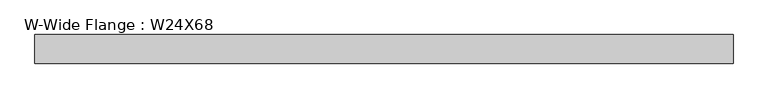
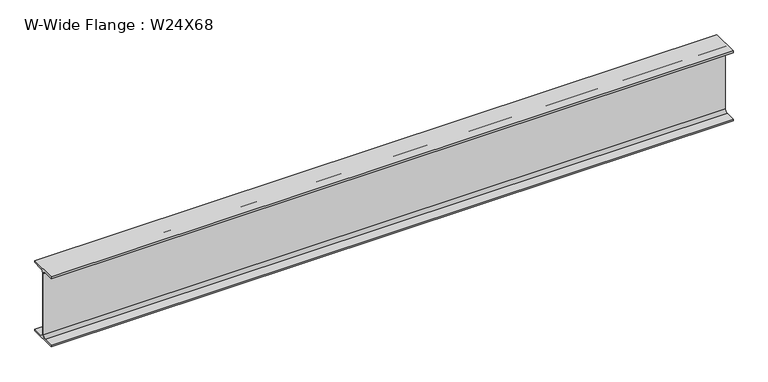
"""IFC4 building model written with IfcOpenShell, lengths in millimetres: beam geometry, W-Wide Flange : W24X68."""

from ifc_helpers import new_model, si_unit, point, frame, frame_2d, origin, place, context, project, spatial, polyline, circle_curve, trimmed, segment, composite_curve, outline, extrude, source, transform, mapped, element, save


def w_wide_flange_w24x68_358f6d4c(model_context):
    return source(origin(), model_context, "Body", "SweptSolid", [
        extrude(outline(composite_curve([segment(polyline([(113.919, -286.131), (113.919, -300.99), (-113.919, -300.99), (-113.919, -286.131), (-28.5115, -286.131)]), True, "CONTINUOUS"), segment(trimmed(circle_curve(frame_2d((-28.5115, -262.89)), 23.241), [point((-28.5115, -286.131))], [point((-5.2705, -262.89))], True, "CARTESIAN"), True, "CONTINUOUS"), segment(polyline([(-5.2705, -262.89), (-5.2705, 262.89)]), True, "CONTINUOUS"), segment(trimmed(circle_curve(frame_2d((-28.5115, 262.89)), 23.241), [point((-5.2705, 262.89))], [point((-28.5115, 286.131))], True, "CARTESIAN"), True, "CONTINUOUS"), segment(polyline([(-28.5115, 286.131), (-113.919, 286.131), (-113.919, 300.99), (113.919, 300.99), (113.919, 286.131), (28.5115, 286.131)]), True, "CONTINUOUS"), segment(trimmed(circle_curve(frame_2d((28.5115, 262.89)), 23.241), [point((28.5115, 286.131))], [point((5.2705, 262.89))], True, "CARTESIAN"), True, "CONTINUOUS"), segment(polyline([(5.2705, 262.89), (5.2705, -262.89)]), True, "CONTINUOUS"), segment(trimmed(circle_curve(frame_2d((28.5115, -262.89)), 23.241), [point((5.2705, -262.89))], [point((28.5115, -286.131))], True, "CARTESIAN"), True, "CONTINUOUS"), segment(polyline([(28.5115, -286.131), (113.919, -286.131)]), True, "CONTINUOUS")], self_intersect=False)), frame((-2774.95, 0.0, 0.0), z_axis=(1.0, 0.0, 0.0), x_axis=(0.0, 1.0, 0.0)), (0.0, 0.0, 1.0), 5549.9),
    ])


if __name__ == "__main__":
    model = new_model("IFC4")
    model_context = context("Model", 3, world=origin())
    ifc_project = project(units=[si_unit("LENGTHUNIT", "METRE", prefix="MILLI")], contexts=[model_context])
    site = spatial("IfcSite", under=ifc_project)
    building = spatial("IfcBuilding", under=site)
    placement = place(None, origin())
    w_wide_flange_w24x68_shape = w_wide_flange_w24x68_358f6d4c(model_context)
    element("IfcBeam", 1, ObjectType="W-Wide Flange : W24X68", at=placement, inside=building, context=model_context, shape_type="MappedRepresentation", body=[
        mapped(w_wide_flange_w24x68_shape, transform((0.0, 0.0, 0.0), x_axis=(1.0, 0.0, 0.0), y_axis=(0.0, 1.0, 0.0), z_axis=(0.0, 0.0, 1.0))),
    ])
    save(model, "model.ifc")
